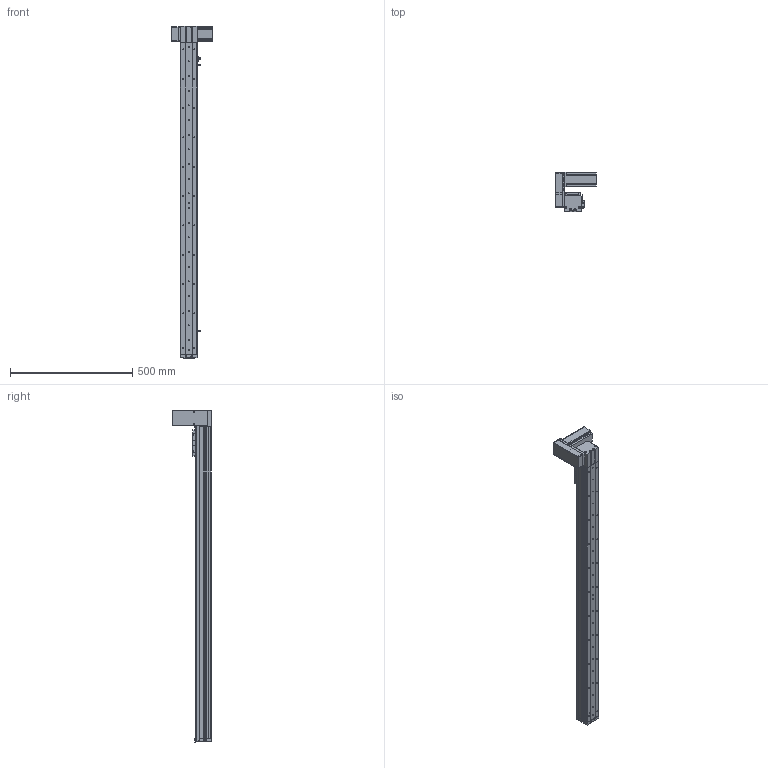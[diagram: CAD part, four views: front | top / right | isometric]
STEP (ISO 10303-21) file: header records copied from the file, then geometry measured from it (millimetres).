
FILE_DESCRIPTION (( 'STEP AP214' ), '1' );
FILE_NAME ('KSD68BS-S1100-MRU-CR.STEP', '2019-08-28T06:34:40', ( '微软用户' ), ( '微软中国' ), 'SwSTEP 2.0', 'SolidWorks 2014', '' );
FILE_SCHEMA (( 'AUTOMOTIVE_DESIGN' ));
Length unit declared in the file: millimetre
Products named in the file (14): KSD68BS 1100行程侧板全封闭; 68宽单导轨全封闭同步带端板; 68遵裔啣揤啣1; 68单导轨全封闭同步带电机座右; 68单导轨全封闭同步带安装板; 悵誘欶奻狟殏; 68宽马达安装板连板上折同步带; 感应片68宽全封闭; U倰嫖萇EEㄜSX672; 台达ECMA－C20604AS伺服电机（400W); KSD68BS 1100行程底板全封闭; KSD68BS-S1100-MRU-CR; KSD68BS 1100行程盖板全封闭; 68宽单导轨全封闭丝杆传动安装板1防护罩
Assembly tree (17 placements, depth 2):
  KSD68BS-S1100-MRU-CR
    KSD68BS 1100行程底板全封闭
    台达ECMA－C20604AS伺服电机（400W)
    U倰嫖萇EEㄜSX672  x3
    感应片68宽全封闭
    68宽马达安装板连板上折同步带
    悵誘欶奻狟殏
    68单导轨全封闭同步带安装板
    68单导轨全封闭同步带电机座右
    68宽单导轨全封闭同步带端板
    KSD68BS 1100行程侧板全封闭  x2
    68宽单导轨全封闭丝杆传动安装板1防护罩
    68遵裔啣揤啣1  x2
    KSD68BS 1100行程盖板全封闭
Bounding box: 167.2 x 159.5 x 1358.1 mm (x, y, z)
Volume: 2671539.7 mm3; surface area: 1036027.5 mm2
Topology: 18 solids, 18 shells, 1542 faces, 4399 edges, 2809 vertices
Faces by surface type: cylinder 739, plane 631, cone 172
Entity records: 49178 total; most frequent: CARTESIAN_POINT 8439, DIRECTION 7359, ORIENTED_EDGE 7034, EDGE_CURVE 3517, AXIS2_PLACEMENT_3D 2663, VERTEX_POINT 2307, LINE 2033, VECTOR 2033
